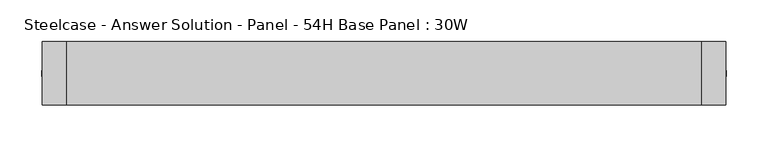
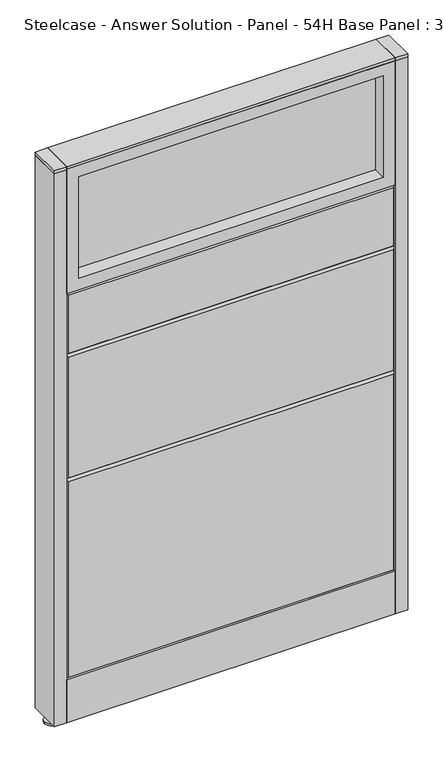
"""IFC4 building model written with IfcOpenShell, lengths in millimetres: furniture geometry, Steelcase - Answer Solution - Panel - 54H Base Panel : 30W."""

from ifc_helpers import new_model, si_unit, point, frame, frame_2d, origin, place, context, project, spatial, polyline, circle_curve, trimmed, segment, composite_curve, outline, extrude, faceted_brep, source, transform, mapped, element, save


def steelcase_answer_solution_panel_54h_base_panel_30w_1e54767f(model_context):
    return source(origin(), model_context, "Body", "SolidModel", [
        extrude(outline(composite_curve([segment(trimmed(circle_curve(frame_2d((395.224, 0.0320214)), 5.08), [point((400.304, 0.0320214))], [point((390.144, 0.0320214))], False, "CARTESIAN"), True, "CONTINUOUS"), segment(trimmed(circle_curve(frame_2d((395.224, 0.0320214)), 5.08), [point((390.144, 0.0320214))], [point((400.304, 0.0320214))], False, "CARTESIAN"), True, "CONTINUOUS")], self_intersect=False)), frame((0.0, 0.0, 5.0799671), z_axis=(0.0, 0.0, 1.0), x_axis=(1.0, 0.0, 0.0)), (0.0, 0.0, 1.0), 10.414),
        extrude(outline(composite_curve([segment(trimmed(circle_curve(frame_2d((395.224, 0.0320214)), 15.24), [point((410.464, 0.0320214))], [point((379.984, 0.0320214))], False, "CARTESIAN"), True, "CONTINUOUS"), segment(trimmed(circle_curve(frame_2d((395.224, 0.0320214)), 15.24), [point((379.984, 0.0320214))], [point((410.464, 0.0320214))], False, "CARTESIAN"), True, "CONTINUOUS")], self_intersect=False)), frame((0.0, 0.0, -3.29e-05), z_axis=(0.0, 0.0, 1.0), x_axis=(1.0, 0.0, 0.0)), (0.0, 0.0, 1.0), 5.08),
        extrude(outline(polyline([(409.575, 38.1320408), (409.575, -38.0679592), (381.0, -38.0679592), (381.0, 38.1320408), (409.575, 38.1320408)])), frame((0.0, 0.0, 1370.6348), z_axis=(0.0, 0.0, 1.0), x_axis=(1.0, 0.0, 0.0)), (0.0, 0.0, 1.0), 7.3151671),
        extrude(outline(polyline([(409.575, 38.1320408), (409.575, -38.0679592), (381.0, -38.0679592), (381.0, 38.1320408), (409.575, 38.1320408)])), frame((0.0, 0.0, 15.4939671), z_axis=(0.0, 0.0, 1.0), x_axis=(1.0, 0.0, 0.0)), (0.0, 0.0, 1.0), 1355.1408329),
        extrude(outline(composite_curve([segment(trimmed(circle_curve(frame_2d((-395.224, 0.0320214)), 5.08), [point((-400.304, 0.0320214))], [point((-390.144, 0.0320214))], False, "CARTESIAN"), True, "CONTINUOUS"), segment(trimmed(circle_curve(frame_2d((-395.224, 0.0320214)), 5.08), [point((-390.144, 0.0320214))], [point((-400.304, 0.0320214))], False, "CARTESIAN"), True, "CONTINUOUS")], self_intersect=False)), frame((0.0, 0.0, 5.0799671), z_axis=(0.0, 0.0, 1.0), x_axis=(1.0, 0.0, 0.0)), (0.0, 0.0, 1.0), 10.414),
        extrude(outline(composite_curve([segment(trimmed(circle_curve(frame_2d((-395.224, 0.0320214)), 15.24), [point((-410.464, 0.0320214))], [point((-379.984, 0.0320214))], False, "CARTESIAN"), True, "CONTINUOUS"), segment(trimmed(circle_curve(frame_2d((-395.224, 0.0320214)), 15.24), [point((-379.984, 0.0320214))], [point((-410.464, 0.0320214))], False, "CARTESIAN"), True, "CONTINUOUS")], self_intersect=False)), frame((0.0, 0.0, -3.29e-05), z_axis=(0.0, 0.0, 1.0), x_axis=(1.0, 0.0, 0.0)), (0.0, 0.0, 1.0), 5.08),
        extrude(outline(polyline([(-409.575, 38.1320408), (-381.0, 38.1320408), (-381.0, -38.0679592), (-409.575, -38.0679592), (-409.575, 38.1320408)])), frame((0.0, 0.0, 1370.6348), z_axis=(0.0, 0.0, 1.0), x_axis=(1.0, 0.0, 0.0)), (0.0, 0.0, 1.0), 7.3151671),
        extrude(outline(polyline([(-409.575, 38.1320408), (-381.0, 38.1320408), (-381.0, -38.0679592), (-409.575, -38.0679592), (-409.575, 38.1320408)])), frame((0.0, 0.0, 15.4939671), z_axis=(0.0, 0.0, 1.0), x_axis=(1.0, 0.0, 0.0)), (0.0, 0.0, 1.0), 1355.1408329),
        extrude(outline(polyline([(-353.06, 6.346049), (353.06, 6.346049), (353.06, -6.353951), (-353.06, -6.353951), (-353.06, 6.346049)])), frame((0.0, 0.0, 1094.74), z_axis=(0.0, 0.0, 1.0), x_axis=(1.0, 0.0, 0.0)), (0.0, 0.0, 1.0), 248.92),
        extrude(outline(polyline([(1371.6, -381.0), (1066.8, -381.0), (1066.8, 381.0), (1371.6, 381.0), (1371.6, -381.0)]), holes=[polyline([(1343.66, -353.06), (1343.66, 353.06), (1094.74, 353.06), (1094.74, -353.06), (1343.66, -353.06)])]), frame((0.0, -38.103951, 0.0), z_axis=(0.0, 1.0, 0.0), x_axis=(0.0, 0.0, 1.0)), (0.0, 0.0, 1.0), 76.2),
        faceted_brep([(-376.174, 38.1635011, 1061.974), (376.174, 38.1635011, 1061.974), (376.174, 38.1635011, 919.226), (-376.174, 38.1635011, 919.226), (-381.0, 33.3375011, 1066.8), (-381.0, 33.3375011, 914.4), (381.0, 33.3375011, 914.4), (381.0, 33.3375011, 1066.8)], [[[0, 1, 2, 3]], [[4, 5, 6, 7]], [[4, 7, 1, 0]], [[7, 6, 2, 1]], [[6, 5, 3, 2]], [[5, 4, 0, 3]]]),
        faceted_brep([(-376.174, 38.1635011, 909.574), (376.174, 38.1635011, 909.574), (376.174, 38.1635011, 614.426), (-376.174, 38.1635011, 614.426), (-381.0, 33.3375011, 914.4), (-381.0, 33.3375011, 609.6), (381.0, 33.3375011, 609.6), (381.0, 33.3375011, 914.4)], [[[0, 1, 2, 3]], [[4, 5, 6, 7]], [[4, 7, 1, 0]], [[7, 6, 2, 1]], [[6, 5, 3, 2]], [[5, 4, 0, 3]]]),
        faceted_brep([(-376.174, 38.1635011, 604.774), (376.174, 38.1635011, 604.774), (376.174, 38.1635011, 125.476), (-376.174, 38.1635011, 125.476), (-381.0, 33.3375011, 609.6), (-381.0, 33.3375011, 120.65), (381.0, 33.3375011, 120.65), (381.0, 33.3375011, 609.6)], [[[0, 1, 2, 3]], [[4, 5, 6, 7]], [[4, 7, 1, 0]], [[7, 6, 2, 1]], [[6, 5, 3, 2]], [[5, 4, 0, 3]]]),
        extrude(outline(polyline([(353.06, -6.346049), (-353.06, -6.346049), (-353.06, 6.353951), (353.06, 6.353951), (353.06, -6.346049)])), frame((0.0, 0.0, 1094.74), z_axis=(0.0, 0.0, 1.0), x_axis=(1.0, 0.0, 0.0)), (0.0, 0.0, 1.0), 248.92),
        extrude(outline(polyline([(1371.6, 381.0), (1371.6, -381.0), (1066.8, -381.0), (1066.8, 381.0), (1371.6, 381.0)]), holes=[polyline([(1343.66, 353.06), (1094.74, 353.06), (1094.74, -353.06), (1343.66, -353.06), (1343.66, 353.06)])]), frame((0.0, -38.096049, 0.0), z_axis=(0.0, 1.0, 0.0), x_axis=(0.0, 0.0, 1.0)), (0.0, 0.0, 1.0), 76.2),
        faceted_brep([(376.174, -38.1635011, 1061.974), (-376.174, -38.1635011, 1061.974), (-376.174, -38.1635011, 919.226), (376.174, -38.1635011, 919.226), (381.0, -33.3375011, 1066.8), (381.0, -33.3375011, 914.4), (-381.0, -33.3375011, 914.4), (-381.0, -33.3375011, 1066.8)], [[[0, 1, 2, 3]], [[4, 5, 6, 7]], [[4, 7, 1, 0]], [[7, 6, 2, 1]], [[6, 5, 3, 2]], [[5, 4, 0, 3]]]),
        faceted_brep([(376.174, -38.1635011, 909.574), (-376.174, -38.1635011, 909.574), (-376.174, -38.1635011, 614.426), (376.174, -38.1635011, 614.426), (381.0, -33.3375011, 914.4), (381.0, -33.3375011, 609.6), (-381.0, -33.3375011, 609.6), (-381.0, -33.3375011, 914.4)], [[[0, 1, 2, 3]], [[4, 5, 6, 7]], [[4, 7, 1, 0]], [[7, 6, 2, 1]], [[6, 5, 3, 2]], [[5, 4, 0, 3]]]),
        faceted_brep([(376.174, -38.1635011, 604.774), (-376.174, -38.1635011, 604.774), (-376.174, -38.1635011, 125.476), (376.174, -38.1635011, 125.476), (381.0, -33.3375011, 609.6), (381.0, -33.3375011, 120.65), (-381.0, -33.3375011, 120.65), (-381.0, -33.3375011, 609.6)], [[[0, 1, 2, 3]], [[4, 5, 6, 7]], [[4, 7, 1, 0]], [[7, 6, 2, 1]], [[6, 5, 3, 2]], [[5, 4, 0, 3]]]),
        extrude(outline(polyline([(381.0, 38.1000194), (381.0, -38.1000194), (-381.0, -38.1000194), (-381.0, 38.1000194), (381.0, 38.1000194)])), frame((0.0, 0.0, 1371.6), z_axis=(0.0, 0.0, 1.0), x_axis=(1.0, 0.0, 0.0)), (0.0, 0.0, 1.0), 6.35),
        extrude(outline(polyline([(25.4000011, 119.8575157), (25.4000011, 120.65), (38.1000194, 120.65), (38.1000194, 15.494), (37.3075215, 15.494), (37.3075215, 119.8575157), (25.4000011, 119.8575157)])), frame((-381.0, 0.0, 0.0), z_axis=(1.0, 0.0, 0.0), x_axis=(0.0, 1.0, 0.0)), (0.0, 0.0, 1.0), 762.0),
        extrude(outline(polyline([(-25.4000011, 119.8575157), (-37.3075215, 119.8575157), (-37.3075215, 15.494), (-38.1000194, 15.494), (-38.1000194, 120.65), (-25.4000011, 120.65), (-25.4000011, 119.8575157)])), frame((-381.0, 0.0, 0.0), z_axis=(1.0, 0.0, 0.0), x_axis=(0.0, 1.0, 0.0)), (0.0, 0.0, 1.0), 762.0),
    ])


if __name__ == "__main__":
    model = new_model("IFC4")
    model_context = context("Model", 3, world=origin())
    ifc_project = project(units=[si_unit("LENGTHUNIT", "METRE", prefix="MILLI")], contexts=[model_context])
    site = spatial("IfcSite", under=ifc_project)
    building = spatial("IfcBuilding", under=site)
    placement = place(None, origin())
    steelcase_answer_solution_panel_54h_base_panel_30w_shape = steelcase_answer_solution_panel_54h_base_panel_30w_1e54767f(model_context)
    element("IfcFurniture", 1, ObjectType="Steelcase - Answer Solution - Panel - 54H Base Panel : 30W", at=placement, inside=building, context=model_context, shape_type="MappedRepresentation", body=[
        mapped(steelcase_answer_solution_panel_54h_base_panel_30w_shape, transform((0.0, 0.0, 0.0), x_axis=(1.0, 0.0, 0.0), y_axis=(0.0, 1.0, 0.0), z_axis=(0.0, 0.0, 1.0))),
    ])
    save(model, "model.ifc")
